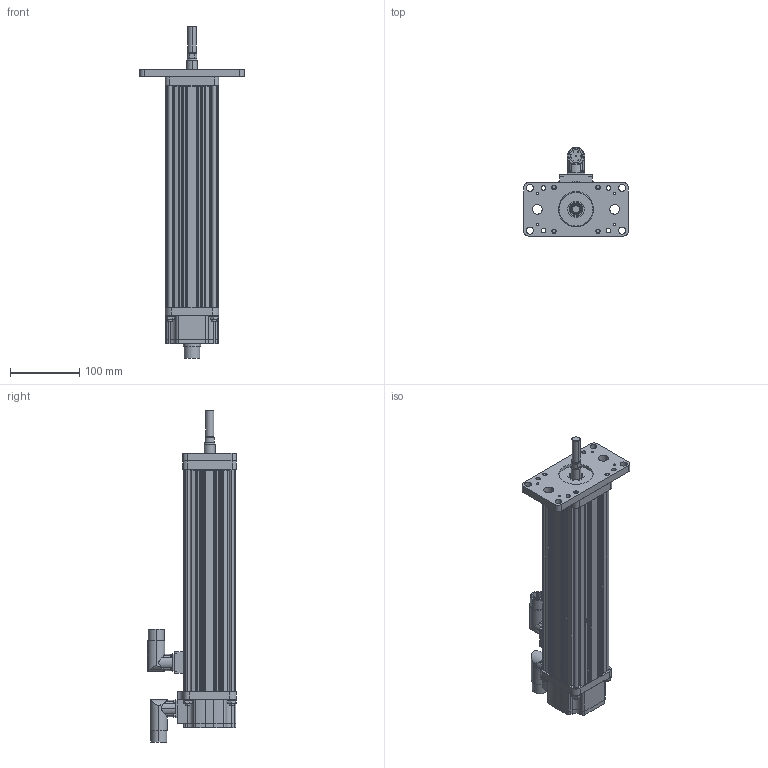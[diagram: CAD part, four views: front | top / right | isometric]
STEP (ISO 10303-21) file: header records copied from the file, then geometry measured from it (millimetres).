
FILE_DESCRIPTION (( 'STEP AP203' ), '1' );
FILE_NAME ('GSM30-10 inch Front Flange, Euro Conn, A Rod.step', '2008-06-14T07:43:01', ( 'SaharaKiran' ), ( 'I2T2' ), 'SwSTEP 2.0', 'SolidWorks 2008', '' );
FILE_SCHEMA (( 'CONFIG_CONTROL_DESIGN' ));
Length unit declared in the file: inch
Products named in the file (16): 12367; Tie Rod_10540-10"; GSM30-10 inch Front Flange, Euro Conn, A Rod; End cap_Front Flange, Euro; 10513; End Cap_27687-EURO; case_10"; MAIN ROD GSX30_A MAIN ROD -10"; 25610; 20494; 26428; 23017; 19819; 10647; 11247; 11248
Assembly tree (36 placements, depth 3):
  GSM30-10 inch Front Flange, Euro Conn, A Rod
    10513  x2
    Tie Rod_10540-10"  x4
    12367  x4
    25610
    19819
    11248  x4
    11247  x4
    23017
    End cap_Front Flange, Euro
      26428
      12367  x8
      End Cap_27687-EURO
      20494
    case_10"
    10647
    MAIN ROD GSX30_A MAIN ROD -10"
Bounding box: 150.88 x 128.48 x 480.39 mm (x, y, z)
Volume: 991285.3 mm3; surface area: 389891.3 mm2
Topology: 35 solids, 35 shells, 1058 faces, 2565 edges, 1625 vertices
Faces by surface type: cylinder 511, plane 348, cone 169, torus 30
Entity records: 26020 total; most frequent: CARTESIAN_POINT 4749, DIRECTION 4318, ORIENTED_EDGE 3726, EDGE_CURVE 1863, AXIS2_PLACEMENT_3D 1723, VERTEX_POINT 1213, CIRCLE 933, EDGE_LOOP 932
